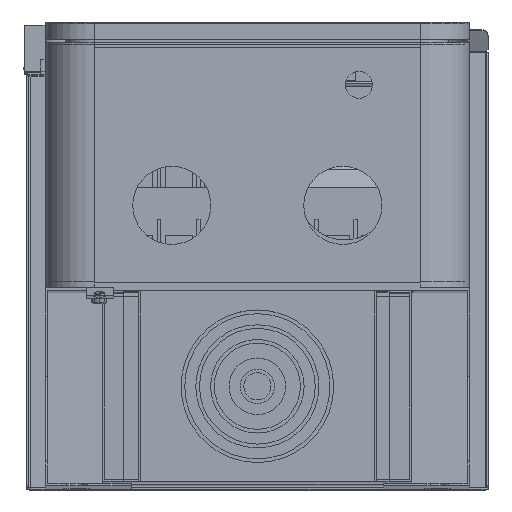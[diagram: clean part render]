
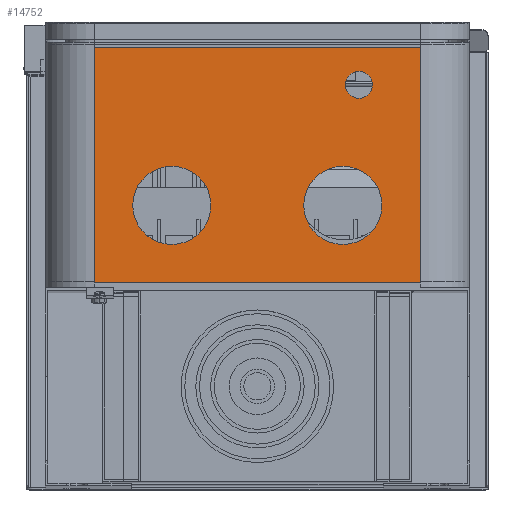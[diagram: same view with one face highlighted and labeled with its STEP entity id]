
A CAD part, top view. The second image highlights one B-rep face of the part: STEP entity #14752.
In plain terms, the highlighted planar face has unit normal (0, 0, 1).
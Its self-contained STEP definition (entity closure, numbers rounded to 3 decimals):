
#9981=DIRECTION('',(0.,1.,0.));
#9982=VECTOR('',#9981,191.);
#9983=CARTESIAN_POINT('',(-132.5,163.,409.));
#9984=LINE('',#9983,#9982);
#9985=DIRECTION('',(1.,0.,0.));
#9986=VECTOR('',#9985,265.);
#9987=CARTESIAN_POINT('',(-132.5,354.,409.));
#9988=LINE('',#9987,#9986);
#9989=DIRECTION('',(0.,-1.,0.));
#9990=VECTOR('',#9989,191.);
#9991=CARTESIAN_POINT('',(132.5,354.,409.));
#9992=LINE('',#9991,#9990);
#9993=DIRECTION('',(-1.,0.,0.));
#9994=VECTOR('',#9993,265.);
#9995=CARTESIAN_POINT('',(132.5,163.,409.));
#9996=LINE('',#9995,#9994);
#9997=CARTESIAN_POINT('',(82.5,324.,409.));
#9998=DIRECTION('',(0.,0.,1.));
#9999=DIRECTION('',(1.,0.,0.));
#10000=AXIS2_PLACEMENT_3D('',#9997,#9998,#9999);
#10002=CARTESIAN_POINT('',(82.5,324.,409.));
#10003=DIRECTION('',(0.,0.,1.));
#10004=DIRECTION('',(-1.,0.,0.));
#10005=AXIS2_PLACEMENT_3D('',#10002,#10003,#10004);
#10007=CARTESIAN_POINT('',(69.5,226.,409.));
#10008=DIRECTION('',(0.,0.,1.));
#10009=DIRECTION('',(1.,0.,0.));
#10010=AXIS2_PLACEMENT_3D('',#10007,#10008,#10009);
#10012=CARTESIAN_POINT('',(69.5,226.,409.));
#10013=DIRECTION('',(0.,0.,1.));
#10014=DIRECTION('',(-1.,0.,0.));
#10015=AXIS2_PLACEMENT_3D('',#10012,#10013,#10014);
#10017=CARTESIAN_POINT('',(-69.5,226.,409.));
#10018=DIRECTION('',(0.,0.,1.));
#10019=DIRECTION('',(1.,0.,0.));
#10020=AXIS2_PLACEMENT_3D('',#10017,#10018,#10019);
#10022=CARTESIAN_POINT('',(-69.5,226.,409.));
#10023=DIRECTION('',(0.,0.,1.));
#10024=DIRECTION('',(-1.,0.,0.));
#10025=AXIS2_PLACEMENT_3D('',#10022,#10023,#10024);
#10539=CARTESIAN_POINT('',(132.5,163.,409.));
#10540=VERTEX_POINT('',#10539);
#10541=CARTESIAN_POINT('',(132.5,354.,409.));
#10542=VERTEX_POINT('',#10541);
#10543=CARTESIAN_POINT('',(-132.5,163.,409.));
#10544=VERTEX_POINT('',#10543);
#10545=CARTESIAN_POINT('',(-132.5,354.,409.));
#10546=VERTEX_POINT('',#10545);
#11139=CARTESIAN_POINT('',(37.75,226.,409.));
#11140=VERTEX_POINT('',#11139);
#11141=CARTESIAN_POINT('',(101.25,226.,409.));
#11142=VERTEX_POINT('',#11141);
#11143=CARTESIAN_POINT('',(93.5,324.,409.));
#11144=CARTESIAN_POINT('',(71.5,324.,409.));
#11145=VERTEX_POINT('',#11143);
#11146=VERTEX_POINT('',#11144);
#11147=CARTESIAN_POINT('',(-37.75,226.,409.));
#11148=CARTESIAN_POINT('',(-101.25,226.,409.));
#11149=VERTEX_POINT('',#11147);
#11150=VERTEX_POINT('',#11148);
#14725=CARTESIAN_POINT('',(0.,258.5,409.));
#14726=DIRECTION('',(0.,0.,1.));
#14727=DIRECTION('',(1.,0.,0.));
#14728=AXIS2_PLACEMENT_3D('',#14725,#14726,#14727);
#14729=PLANE('',#14728);
#14730=ORIENTED_EDGE('',*,*,#11818,.T.);
#14731=ORIENTED_EDGE('',*,*,#11833,.T.);
#14732=ORIENTED_EDGE('',*,*,#11789,.T.);
#14733=ORIENTED_EDGE('',*,*,#11805,.T.);
#14734=EDGE_LOOP('',(#14730,#14731,#14732,#14733));
#14735=FACE_OUTER_BOUND('',#14734,.F.);
#14737=ORIENTED_EDGE('',*,*,#14736,.T.);
#14739=ORIENTED_EDGE('',*,*,#14738,.T.);
#14740=EDGE_LOOP('',(#14737,#14739));
#14741=FACE_BOUND('',#14740,.F.);
#14742=ORIENTED_EDGE('',*,*,#14705,.T.);
#14743=ORIENTED_EDGE('',*,*,#14719,.T.);
#14744=EDGE_LOOP('',(#14742,#14743));
#14745=FACE_BOUND('',#14744,.F.);
#14747=ORIENTED_EDGE('',*,*,#14746,.T.);
#14749=ORIENTED_EDGE('',*,*,#14748,.T.);
#14750=EDGE_LOOP('',(#14747,#14749));
#14751=FACE_BOUND('',#14750,.F.);
#14752=ADVANCED_FACE('',(#14735,#14741,#14745,#14751),#14729,.T.);
#10001=CIRCLE('',#10000,11.);
#10006=CIRCLE('',#10005,11.);
#10011=CIRCLE('',#10010,31.75);
#10016=CIRCLE('',#10015,31.75);
#10021=CIRCLE('',#10020,31.75);
#10026=CIRCLE('',#10025,31.75);
#11789=EDGE_CURVE('',#10542,#10540,#9992,.T.);
#11805=EDGE_CURVE('',#10540,#10544,#9996,.T.);
#11818=EDGE_CURVE('',#10544,#10546,#9984,.T.);
#11833=EDGE_CURVE('',#10546,#10542,#9988,.T.);
#14705=EDGE_CURVE('',#11142,#11140,#10011,.T.);
#14719=EDGE_CURVE('',#11140,#11142,#10016,.T.);
#14736=EDGE_CURVE('',#11145,#11146,#10001,.T.);
#14738=EDGE_CURVE('',#11146,#11145,#10006,.T.);
#14746=EDGE_CURVE('',#11149,#11150,#10021,.T.);
#14748=EDGE_CURVE('',#11150,#11149,#10026,.T.);
